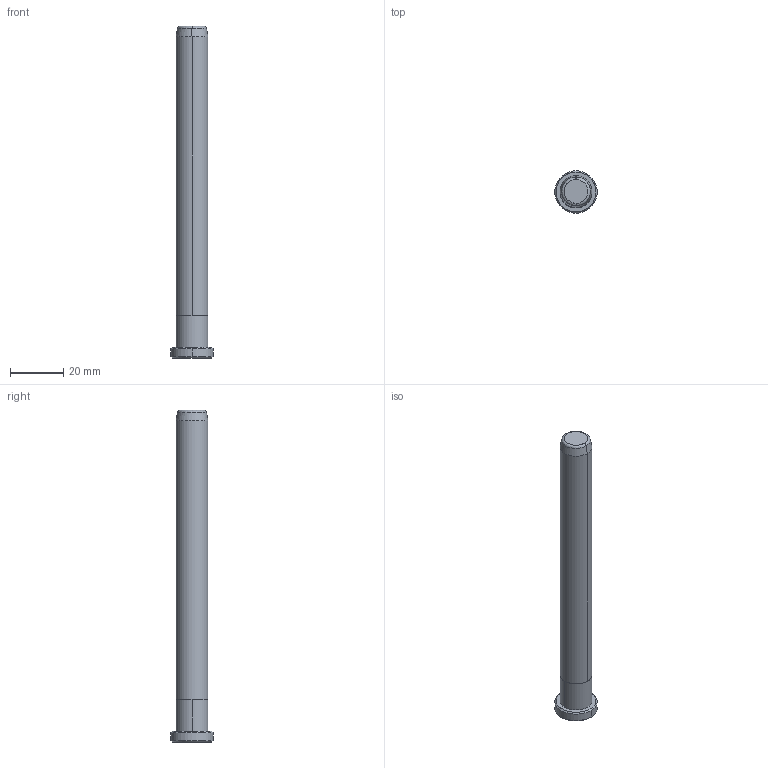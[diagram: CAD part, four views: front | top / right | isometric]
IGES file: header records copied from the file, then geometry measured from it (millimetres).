
Start section: START RECORD GO HERE.
Global section: file name: B80812125.igs; native system: DASSAULT SYSTEMES CATIA V5 R20 - www.3ds.com; preprocessor: CATIA Version 5 Release 20 ; author: Utente; organization: NB04-ASUS; date: 20200419.165433; units: millimetre
Bounding box: 16 x 16 x 125 mm (x, y, z)
Surface area: 5094 mm2 (no closed solid volume)
Topology: 0 solids, 0 shells, 20 faces, 80 edges, 80 vertices
Faces by surface type: revolution 16, plane 4
